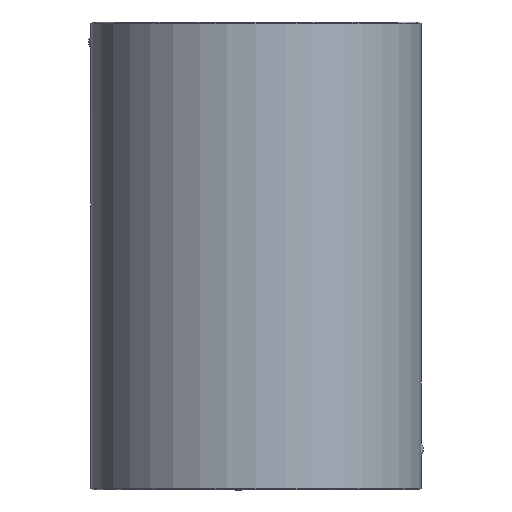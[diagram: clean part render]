
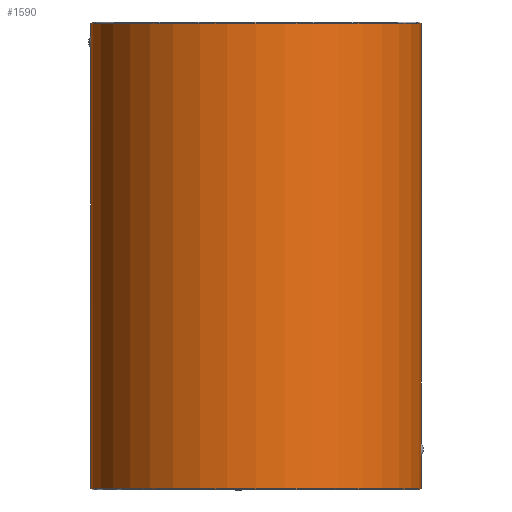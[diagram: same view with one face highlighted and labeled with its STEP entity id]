
A CAD part, front view. The second image highlights one B-rep face of the part: STEP entity #1590.
In plain terms, the highlighted cylindrical face has radius 33.5 mm (diameter 67 mm), a partial arc.
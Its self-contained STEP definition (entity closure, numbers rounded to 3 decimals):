
#1372=CARTESIAN_POINT('Vertex',(-33.5,0.,0.3)) ;
#1379=CARTESIAN_POINT('Vertex',(33.5,0.,0.3)) ;
#1382=CARTESIAN_POINT('Axis2P3D Location',(0.,0.,0.3)) ;
#1500=CARTESIAN_POINT('Axis2P3D Location',(0.,0.,95.)) ;
#1505=CARTESIAN_POINT('Line Origine',(33.5,0.,95.)) ;
#1509=CARTESIAN_POINT('Vertex',(33.5,0.,6.877)) ;
#1513=CARTESIAN_POINT('Control Point',(33.474,-1.326,8.462)) ;
#1514=CARTESIAN_POINT('Control Point',(33.47,-1.422,7.999)) ;
#1515=CARTESIAN_POINT('Control Point',(33.474,-1.307,7.489)) ;
#1516=CARTESIAN_POINT('Control Point',(33.492,-0.946,7.077)) ;
#1517=CARTESIAN_POINT('Control Point',(33.5,-0.473,6.877)) ;
#1518=CARTESIAN_POINT('Control Point',(33.5,0.,6.877)) ;
#1519=CARTESIAN_POINT('Vertex',(33.474,-1.326,8.462)) ;
#1523=CARTESIAN_POINT('Control Point',(33.5,0.,9.523)) ;
#1524=CARTESIAN_POINT('Control Point',(33.5,-0.368,9.523)) ;
#1525=CARTESIAN_POINT('Control Point',(33.495,-0.733,9.402)) ;
#1526=CARTESIAN_POINT('Control Point',(33.485,-1.05,9.157)) ;
#1527=CARTESIAN_POINT('Control Point',(33.477,-1.252,8.822)) ;
#1528=CARTESIAN_POINT('Control Point',(33.474,-1.326,8.462)) ;
#1529=CARTESIAN_POINT('Vertex',(33.5,0.,9.523)) ;
#1532=CARTESIAN_POINT('Line Origine',(33.5,0.,95.)) ;
#1536=CARTESIAN_POINT('Vertex',(33.5,0.,94.7)) ;
#1539=CARTESIAN_POINT('Axis2P3D Location',(0.,0.,94.7)) ;
#1543=CARTESIAN_POINT('Vertex',(-33.5,0.,94.7)) ;
#1546=CARTESIAN_POINT('Line Origine',(-33.5,0.,95.)) ;
#1550=CARTESIAN_POINT('Vertex',(-33.5,0.,92.223)) ;
#1554=CARTESIAN_POINT('Control Point',(-33.474,-1.326,90.638)) ;
#1555=CARTESIAN_POINT('Control Point',(-33.47,-1.422,91.101)) ;
#1556=CARTESIAN_POINT('Control Point',(-33.474,-1.307,91.611)) ;
#1557=CARTESIAN_POINT('Control Point',(-33.492,-0.946,92.023)) ;
#1558=CARTESIAN_POINT('Control Point',(-33.5,-0.473,92.223)) ;
#1559=CARTESIAN_POINT('Control Point',(-33.5,0.,92.223)) ;
#1560=CARTESIAN_POINT('Vertex',(-33.474,-1.326,90.638)) ;
#1564=CARTESIAN_POINT('Control Point',(-33.5,0.,89.577)) ;
#1565=CARTESIAN_POINT('Control Point',(-33.5,-0.368,89.577)) ;
#1566=CARTESIAN_POINT('Control Point',(-33.495,-0.733,89.698)) ;
#1567=CARTESIAN_POINT('Control Point',(-33.485,-1.05,89.943)) ;
#1568=CARTESIAN_POINT('Control Point',(-33.477,-1.252,90.278)) ;
#1569=CARTESIAN_POINT('Control Point',(-33.474,-1.326,90.638)) ;
#1570=CARTESIAN_POINT('Vertex',(-33.5,0.,89.577)) ;
#1573=CARTESIAN_POINT('Line Origine',(-33.5,0.,95.)) ;
#1383=DIRECTION('Axis2P3D Direction',(0.,-0.,1.)) ;
#1501=DIRECTION('Axis2P3D Direction',(0.,0.,-1.)) ;
#1502=DIRECTION('Axis2P3D XDirection',(1.,0.,0.)) ;
#1506=DIRECTION('Vector Direction',(0.,0.,-1.)) ;
#1533=DIRECTION('Vector Direction',(0.,0.,-1.)) ;
#1540=DIRECTION('Axis2P3D Direction',(0.,0.,-1.)) ;
#1547=DIRECTION('Vector Direction',(0.,0.,-1.)) ;
#1574=DIRECTION('Vector Direction',(0.,0.,-1.)) ;
#1384=AXIS2_PLACEMENT_3D('Circle Axis2P3D',#1382,#1383,$) ;
#1503=AXIS2_PLACEMENT_3D('Cylinder Axis2P3D',#1500,#1501,#1502) ;
#1541=AXIS2_PLACEMENT_3D('Circle Axis2P3D',#1539,#1540,$) ;
#1579=ORIENTED_EDGE('',*,*,#1511,.T.) ;
#1580=ORIENTED_EDGE('',*,*,#1521,.F.) ;
#1581=ORIENTED_EDGE('',*,*,#1531,.F.) ;
#1582=ORIENTED_EDGE('',*,*,#1538,.T.) ;
#1583=ORIENTED_EDGE('',*,*,#1545,.F.) ;
#1584=ORIENTED_EDGE('',*,*,#1552,.T.) ;
#1585=ORIENTED_EDGE('',*,*,#1562,.F.) ;
#1586=ORIENTED_EDGE('',*,*,#1572,.F.) ;
#1587=ORIENTED_EDGE('',*,*,#1577,.T.) ;
#1588=ORIENTED_EDGE('',*,*,#1386,.T.) ;
#1507=VECTOR('Line Direction',#1506,1.) ;
#1534=VECTOR('Line Direction',#1533,1.) ;
#1548=VECTOR('Line Direction',#1547,1.) ;
#1575=VECTOR('Line Direction',#1574,1.) ;
#1590=ADVANCED_FACE('730-60x95',(#1589),#1504,.T.) ;
#1512=B_SPLINE_CURVE_WITH_KNOTS('',5,(#1513,#1514,#1515,#1516,#1517,#1518),.UNSPECIFIED.,.F.,.U.,(6,6),(0.,3.352),.UNSPECIFIED.) ;
#1522=B_SPLINE_CURVE_WITH_KNOTS('',5,(#1523,#1524,#1525,#1526,#1527,#1528),.UNSPECIFIED.,.F.,.U.,(6,6),(0.,2.604),.UNSPECIFIED.) ;
#1553=B_SPLINE_CURVE_WITH_KNOTS('',5,(#1554,#1555,#1556,#1557,#1558,#1559),.UNSPECIFIED.,.F.,.U.,(6,6),(0.,3.352),.UNSPECIFIED.) ;
#1563=B_SPLINE_CURVE_WITH_KNOTS('',5,(#1564,#1565,#1566,#1567,#1568,#1569),.UNSPECIFIED.,.F.,.U.,(6,6),(0.,2.604),.UNSPECIFIED.) ;
#1385=CIRCLE('generated circle',#1384,33.5) ;
#1542=CIRCLE('generated circle',#1541,33.5) ;
#1504=CYLINDRICAL_SURFACE('generated cylinder',#1503,33.5) ;
#1386=EDGE_CURVE('',#1373,#1380,#1385,.T.) ;
#1511=EDGE_CURVE('',#1380,#1510,#1508,.F.) ;
#1521=EDGE_CURVE('',#1520,#1510,#1512,.T.) ;
#1531=EDGE_CURVE('',#1530,#1520,#1522,.T.) ;
#1538=EDGE_CURVE('',#1530,#1537,#1535,.F.) ;
#1545=EDGE_CURVE('',#1544,#1537,#1542,.F.) ;
#1552=EDGE_CURVE('',#1544,#1551,#1549,.T.) ;
#1562=EDGE_CURVE('',#1561,#1551,#1553,.T.) ;
#1572=EDGE_CURVE('',#1571,#1561,#1563,.T.) ;
#1577=EDGE_CURVE('',#1571,#1373,#1576,.T.) ;
#1578=EDGE_LOOP('',(#1579,#1580,#1581,#1582,#1583,#1584,#1585,#1586,#1587,#1588)) ;
#1589=FACE_OUTER_BOUND('',#1578,.T.) ;
#1508=LINE('Line',#1505,#1507) ;
#1535=LINE('Line',#1532,#1534) ;
#1549=LINE('Line',#1546,#1548) ;
#1576=LINE('Line',#1573,#1575) ;
#1373=VERTEX_POINT('',#1372) ;
#1380=VERTEX_POINT('',#1379) ;
#1510=VERTEX_POINT('',#1509) ;
#1520=VERTEX_POINT('',#1519) ;
#1530=VERTEX_POINT('',#1529) ;
#1537=VERTEX_POINT('',#1536) ;
#1544=VERTEX_POINT('',#1543) ;
#1551=VERTEX_POINT('',#1550) ;
#1561=VERTEX_POINT('',#1560) ;
#1571=VERTEX_POINT('',#1570) ;
